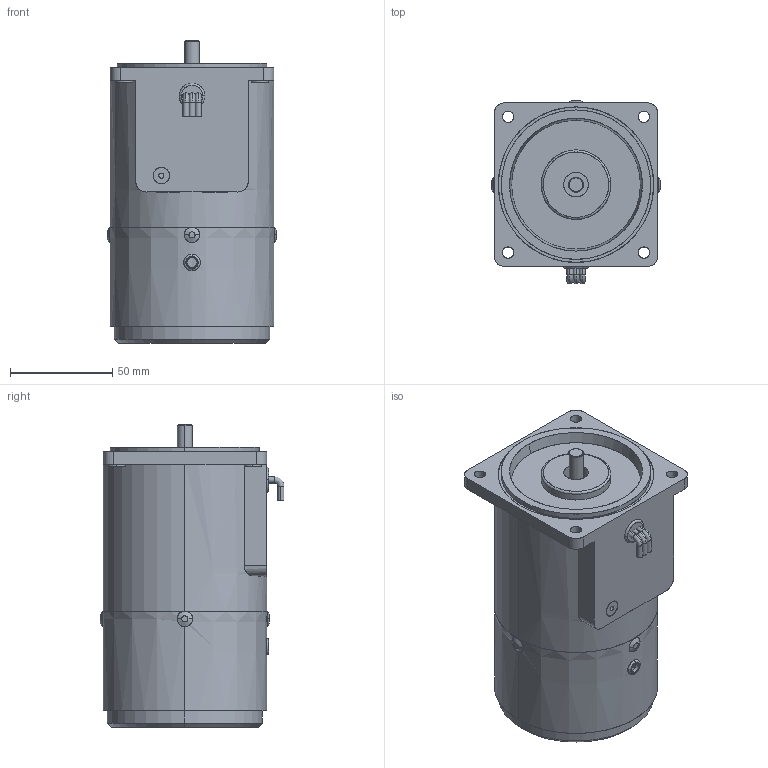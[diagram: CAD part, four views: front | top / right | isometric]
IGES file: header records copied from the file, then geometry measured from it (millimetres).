
Start section: SolidWorks IGES file using analytic representation for surfaces
Bounding box: 83 x 90 x 148 mm (x, y, z)
Surface area: 108356.9 mm2 (no closed solid volume)
Topology: 0 solids, 0 shells, 179 faces, 4518 edges, 4518 vertices
Faces by surface type: revolution 108, bspline 71
